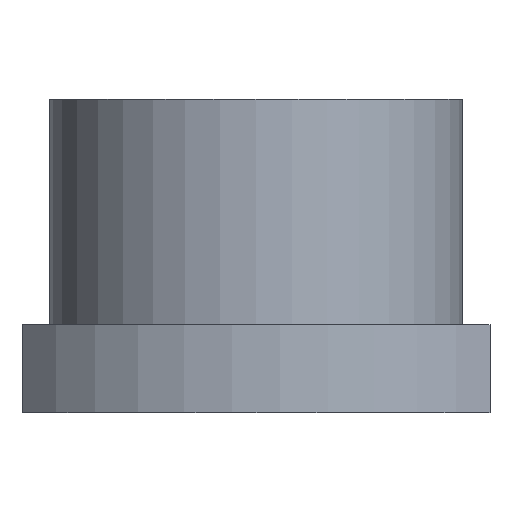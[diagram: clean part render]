
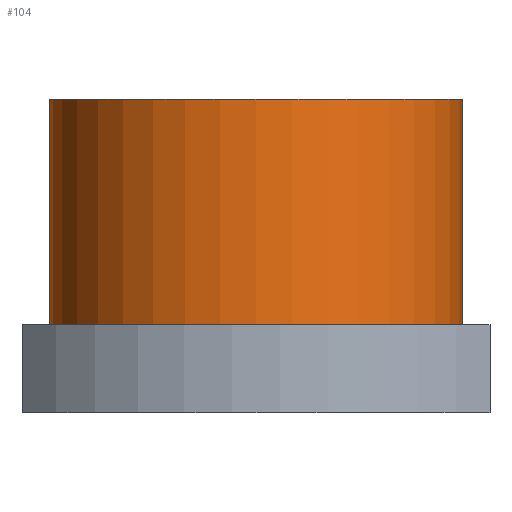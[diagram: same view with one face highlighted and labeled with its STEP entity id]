
A CAD part, front view. The second image highlights one B-rep face of the part: STEP entity #104.
In plain terms, the highlighted cylindrical face has radius 37.5 mm (diameter 75 mm), a full revolution.
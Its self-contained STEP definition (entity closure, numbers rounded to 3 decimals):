
#104=ADVANCED_FACE('',(#138,#139),#124,.T.);
#124=CYLINDRICAL_SURFACE('',#435,37.5);
#138=FACE_BOUND('',#195,.T.);
#139=FACE_BOUND('',#196,.T.);
#195=EDGE_LOOP('',(#268));
#196=EDGE_LOOP('',(#269));
#268=ORIENTED_EDGE('',*,*,#372,.F.);
#269=ORIENTED_EDGE('',*,*,#373,.T.);
#340=VERTEX_POINT('',#648);
#341=VERTEX_POINT('',#650);
#372=EDGE_CURVE('',#340,#340,#405,.T.);
#373=EDGE_CURVE('',#341,#341,#406,.T.);
#405=CIRCLE('',#433,37.5);
#406=CIRCLE('',#434,37.5);
#433=AXIS2_PLACEMENT_3D('',#647,#486,#487);
#434=AXIS2_PLACEMENT_3D('',#649,#488,#489);
#435=AXIS2_PLACEMENT_3D('',#651,#490,#491);
#486=DIRECTION('',(0.,0.,-1.));
#487=DIRECTION('',(1.,0.,0.));
#488=DIRECTION('',(0.,0.,-1.));
#489=DIRECTION('',(1.,0.,0.));
#490=DIRECTION('',(0.,0.,-1.));
#491=DIRECTION('',(-1.,0.,0.));
#647=CARTESIAN_POINT('',(0.,0.,16.));
#648=CARTESIAN_POINT('',(37.5,0.,16.));
#649=CARTESIAN_POINT('',(0.,0.,57.));
#650=CARTESIAN_POINT('',(37.5,0.,57.));
#651=CARTESIAN_POINT('',(0.,0.,57.));
